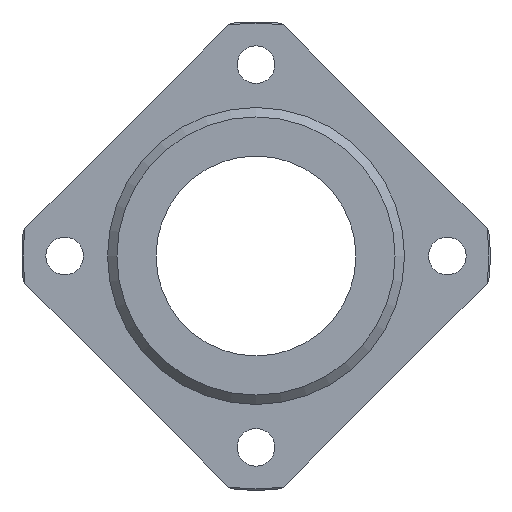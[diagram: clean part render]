
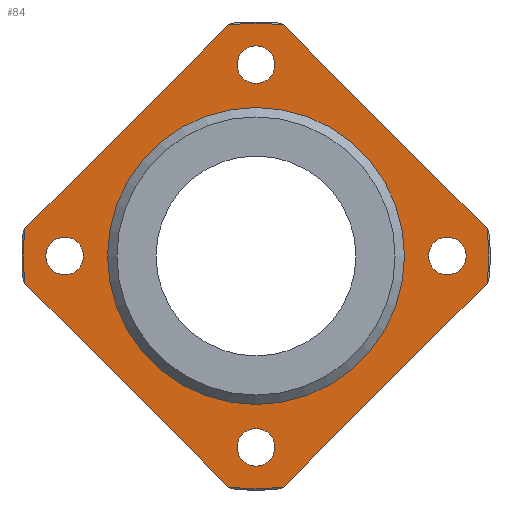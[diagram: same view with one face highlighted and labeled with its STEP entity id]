
A CAD part, left-side view. The second image highlights one B-rep face of the part: STEP entity #84.
In plain terms, the highlighted planar face has unit normal (-1, 0, 0).
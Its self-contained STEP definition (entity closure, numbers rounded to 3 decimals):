
#84=ADVANCED_FACE('',(#134,#135,#136,#137,#138,#139),#140,.F.);
#134=FACE_BOUND('',#237,.T.);
#135=FACE_BOUND('',#238,.T.);
#136=FACE_BOUND('',#239,.T.);
#137=FACE_BOUND('',#240,.T.);
#138=FACE_BOUND('',#241,.T.);
#139=FACE_OUTER_BOUND('',#242,.T.);
#140=PLANE('',#243);
#237=EDGE_LOOP('',(#388));
#238=EDGE_LOOP('',(#389));
#239=EDGE_LOOP('',(#390));
#240=EDGE_LOOP('',(#391));
#241=EDGE_LOOP('',(#392));
#242=EDGE_LOOP('',(#393,#394,#395,#396,#397,#398,#399,#400));
#243=AXIS2_PLACEMENT_3D('',#401,#402,#403);
#388=ORIENTED_EDGE('',*,*,#611,.T.);
#389=ORIENTED_EDGE('',*,*,#612,.T.);
#390=ORIENTED_EDGE('',*,*,#613,.T.);
#391=ORIENTED_EDGE('',*,*,#610,.T.);
#392=ORIENTED_EDGE('',*,*,#608,.T.);
#393=ORIENTED_EDGE('',*,*,#614,.T.);
#394=ORIENTED_EDGE('',*,*,#615,.T.);
#395=ORIENTED_EDGE('',*,*,#616,.T.);
#396=ORIENTED_EDGE('',*,*,#587,.T.);
#397=ORIENTED_EDGE('',*,*,#617,.T.);
#398=ORIENTED_EDGE('',*,*,#595,.T.);
#399=ORIENTED_EDGE('',*,*,#618,.T.);
#400=ORIENTED_EDGE('',*,*,#576,.T.);
#401=CARTESIAN_POINT('',(-14.0,40.746,0.0));
#402=DIRECTION('',(1.0,0.0,0.0));
#403=DIRECTION('',(0.0,0.0,-1.0));
#576=EDGE_CURVE('',#651,#649,#652,.T.);
#587=EDGE_CURVE('',#672,#670,#673,.T.);
#595=EDGE_CURVE('',#688,#686,#689,.T.);
#608=EDGE_CURVE('',#710,#710,#711,.T.);
#610=EDGE_CURVE('',#714,#714,#715,.T.);
#611=EDGE_CURVE('',#716,#716,#717,.T.);
#612=EDGE_CURVE('',#718,#718,#719,.T.);
#613=EDGE_CURVE('',#720,#720,#721,.T.);
#614=EDGE_CURVE('',#649,#722,#723,.T.);
#615=EDGE_CURVE('',#722,#724,#725,.T.);
#616=EDGE_CURVE('',#724,#672,#726,.T.);
#617=EDGE_CURVE('',#670,#688,#727,.T.);
#618=EDGE_CURVE('',#686,#651,#728,.T.);
#649=VERTEX_POINT('',#778);
#651=VERTEX_POINT('',#783);
#652=LINE('',#784,#785);
#670=VERTEX_POINT('',#818);
#672=VERTEX_POINT('',#823);
#673=LINE('',#824,#825);
#686=VERTEX_POINT('',#850);
#688=VERTEX_POINT('',#855);
#689=LINE('',#856,#857);
#710=VERTEX_POINT('',#892);
#711=CIRCLE('',#893,3.3);
#714=VERTEX_POINT('',#896);
#715=CIRCLE('',#897,3.3);
#716=VERTEX_POINT('',#898);
#717=CIRCLE('',#899,26.0);
#718=VERTEX_POINT('',#900);
#719=CIRCLE('',#901,3.3);
#720=VERTEX_POINT('',#902);
#721=CIRCLE('',#903,3.3);
#722=VERTEX_POINT('',#904);
#723=CIRCLE('',#905,40.746);
#724=VERTEX_POINT('',#906);
#725=LINE('',#907,#908);
#726=CIRCLE('',#909,40.746);
#727=CIRCLE('',#910,40.746);
#728=CIRCLE('',#911,40.746);
#778=CARTESIAN_POINT('',(-14.0,-4.792,40.463));
#783=CARTESIAN_POINT('',(-14.0,-40.463,4.792));
#784=CARTESIAN_POINT('',(-14.0,-2.254,43.));
#785=VECTOR('',#967,1.0);
#818=CARTESIAN_POINT('',(-14.0,4.792,-40.463));
#823=CARTESIAN_POINT('',(-14.0,40.463,-4.792));
#824=CARTESIAN_POINT('',(-14.0,43.,-2.254));
#825=VECTOR('',#977,1.0);
#850=CARTESIAN_POINT('',(-14.0,-40.463,-4.792));
#855=CARTESIAN_POINT('',(-14.0,-4.792,-40.463));
#856=CARTESIAN_POINT('',(-14.0,-2.254,-43.));
#857=VECTOR('',#981,1.0);
#892=CARTESIAN_POINT('',(-14.0,33.5,-3.3));
#893=AXIS2_PLACEMENT_3D('',#1002,#1003,#1004);
#896=CARTESIAN_POINT('',(-14.0,0.,-36.8));
#897=AXIS2_PLACEMENT_3D('',#1008,#1009,#1010);
#898=CARTESIAN_POINT('',(-14.0,0.0,-26.0));
#899=AXIS2_PLACEMENT_3D('',#1011,#1012,#1013);
#900=CARTESIAN_POINT('',(-14.0,0.,30.2));
#901=AXIS2_PLACEMENT_3D('',#1014,#1015,#1016);
#902=CARTESIAN_POINT('',(-14.0,-33.5,-3.3));
#903=AXIS2_PLACEMENT_3D('',#1017,#1018,#1019);
#904=CARTESIAN_POINT('',(-14.0,4.792,40.463));
#905=AXIS2_PLACEMENT_3D('',#1020,#1021,#1022);
#906=CARTESIAN_POINT('',(-14.0,40.463,4.792));
#907=CARTESIAN_POINT('',(-14.0,43.,2.254));
#908=VECTOR('',#1023,1.0);
#909=AXIS2_PLACEMENT_3D('',#1024,#1025,#1026);
#910=AXIS2_PLACEMENT_3D('',#1027,#1028,#1029);
#911=AXIS2_PLACEMENT_3D('',#1030,#1031,#1032);
#967=DIRECTION('',(0.0,0.707,0.707));
#977=DIRECTION('',(0.0,-0.707,-0.707));
#981=DIRECTION('',(0.0,-0.707,0.707));
#1002=CARTESIAN_POINT('',(-14.0,33.5,0.0));
#1003=DIRECTION('',(1.0,0.0,0.0));
#1004=DIRECTION('',(0.0,0.0,-1.0));
#1008=CARTESIAN_POINT('',(-14.0,0.,-33.5));
#1009=DIRECTION('',(1.0,0.0,0.0));
#1010=DIRECTION('',(0.0,0.0,-1.0));
#1011=CARTESIAN_POINT('',(-14.0,0.0,0.0));
#1012=DIRECTION('',(1.0,0.0,0.0));
#1013=DIRECTION('',(0.0,0.0,-1.0));
#1014=CARTESIAN_POINT('',(-14.0,0.,33.5));
#1015=DIRECTION('',(1.0,0.0,0.0));
#1016=DIRECTION('',(0.0,0.0,-1.0));
#1017=CARTESIAN_POINT('',(-14.0,-33.5,0.0));
#1018=DIRECTION('',(1.0,0.0,0.0));
#1019=DIRECTION('',(0.0,0.0,-1.0));
#1020=CARTESIAN_POINT('',(-14.0,0.0,0.0));
#1021=DIRECTION('',(-1.0,0.0,0.0));
#1022=DIRECTION('',(0.0,0.0,1.0));
#1023=DIRECTION('',(0.0,0.707,-0.707));
#1024=CARTESIAN_POINT('',(-14.0,0.0,0.0));
#1025=DIRECTION('',(-1.0,0.0,0.0));
#1026=DIRECTION('',(0.0,0.0,1.0));
#1027=CARTESIAN_POINT('',(-14.0,0.0,0.0));
#1028=DIRECTION('',(-1.0,0.0,0.0));
#1029=DIRECTION('',(0.0,0.0,1.0));
#1030=CARTESIAN_POINT('',(-14.0,0.0,0.0));
#1031=DIRECTION('',(-1.0,0.0,0.0));
#1032=DIRECTION('',(0.0,0.0,1.0));
